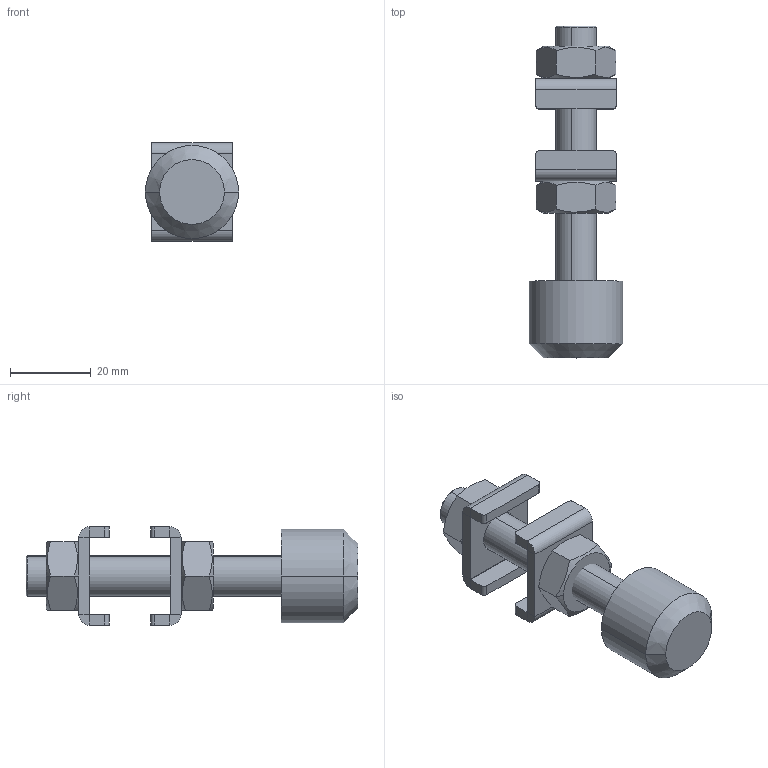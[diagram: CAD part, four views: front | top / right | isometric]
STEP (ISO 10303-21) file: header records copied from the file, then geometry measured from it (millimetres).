
FILE_DESCRIPTION (( 'STEP AP203' ), '1' );
FILE_NAME ('BRP-M10.STEP', '2016-07-25T18:02:51', ( 'Ricardo' ), ( '' ), 'SwSTEP 2.0', 'SolidWorks 2015', '' );
FILE_SCHEMA (( 'CONFIG_CONTROL_DESIGN' ));
Length unit declared in the file: millimetre
Products named in the file (5): 11.50003; 14.10003; BRP-M10; 20.20011; 20.20015
Assembly tree (6 placements, depth 2):
  BRP-M10
    20.20011
    20.20015
    11.50003  x2
    14.10003  x2
Bounding box: 23 x 82 x 24.3 mm (x, y, z)
Volume: 18378.7 mm3; surface area: 9769 mm2
Topology: 6 solids, 6 shells, 110 faces, 246 edges, 147 vertices
Faces by surface type: plane 56, cylinder 30, cone 24
Entity records: 2415 total; most frequent: CARTESIAN_POINT 418, DIRECTION 326, ORIENTED_EDGE 276, EDGE_CURVE 138, AXIS2_PLACEMENT_3D 127, VERTEX_POINT 83, LINE 72, VECTOR 72
